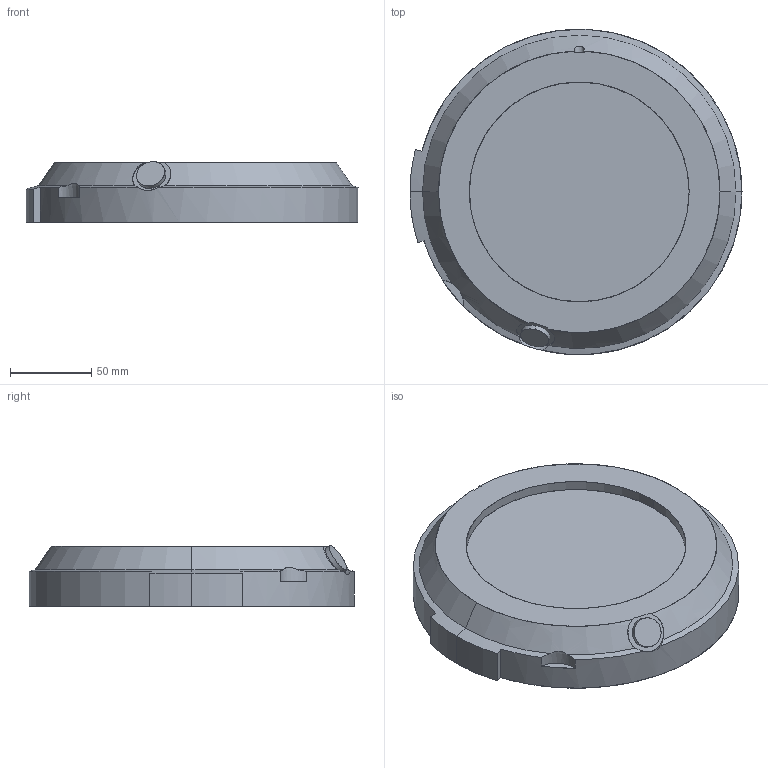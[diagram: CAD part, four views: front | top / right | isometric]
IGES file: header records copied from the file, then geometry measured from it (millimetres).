
Start section: SolidWorks IGES file using analytic representation for surfaces
Global section: file name: C:\Data\Lättmodeller\Nytt\660\IRB660_180-315_IRC5_rev03\IRB660_180-315_IRC5_rev03_IRC5_IGES_j\IRB660_180-315_LINK6_CAD_rev02.IGS; native system: SolidWorks 2014; preprocessor: SolidWorks 2014; author: seadbov; date: 161202.130141; units: millimetre
Bounding box: 204 x 199.9 x 37.26 mm (x, y, z)
Surface area: 96169.1 mm2 (no closed solid volume)
Topology: 0 solids, 0 shells, 111 faces, 2368 edges, 2368 vertices
Faces by surface type: revolution 75, bspline 36
